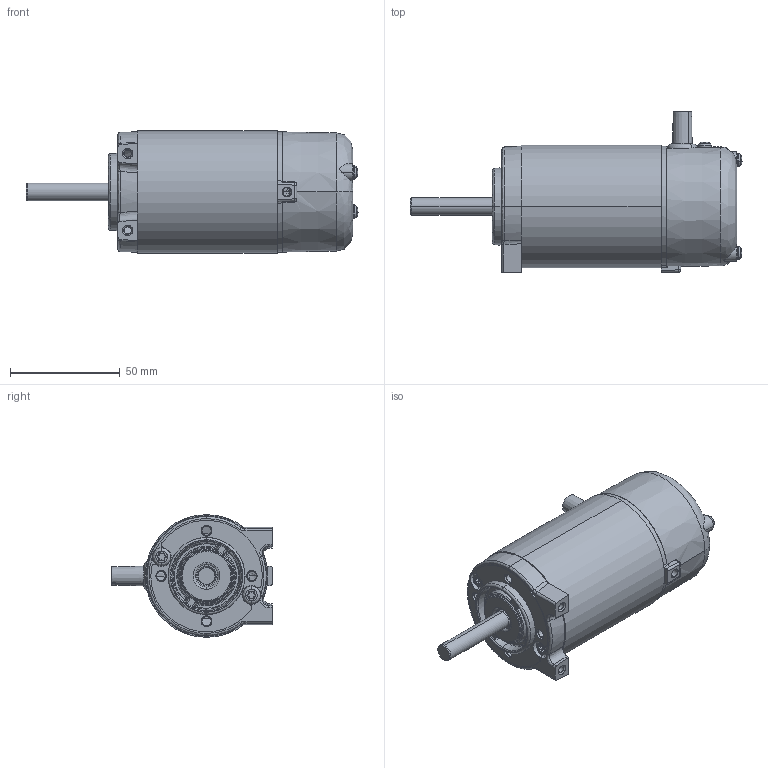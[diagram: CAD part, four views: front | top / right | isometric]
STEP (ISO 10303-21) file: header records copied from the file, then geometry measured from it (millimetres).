
FILE_DESCRIPTION (( 'STEP AP214' ), '1' );
FILE_NAME ('PM9.STEP', '2021-07-05T08:39:26', ( '' ), ( '' ), 'SwSTEP 2.0', 'SolidWorks 2020', '' );
FILE_SCHEMA (( 'AUTOMOTIVE_DESIGN' ));
Length unit declared in the file: millimetre
Products named in the file (1): PM9
Bounding box: 151.24 x 73.25 x 55.88 mm (x, y, z)
Surface area: 32217.3 mm2 (no closed solid volume)
Topology: 0 solids, 17 shells, 406 faces, 1247 edges, 831 vertices
Faces by surface type: cone 121, bspline 99, plane 89, cylinder 77, torus 18, sphere 2
Entity records: 24719 total; most frequent: CARTESIAN_POINT 10070, ORIENTED_EDGE 2125, DIRECTION 1954, EDGE_CURVE 1236, VERTEX_POINT 831, AXIS2_PLACEMENT_3D 788, CIRCLE 480, EDGE_LOOP 439
